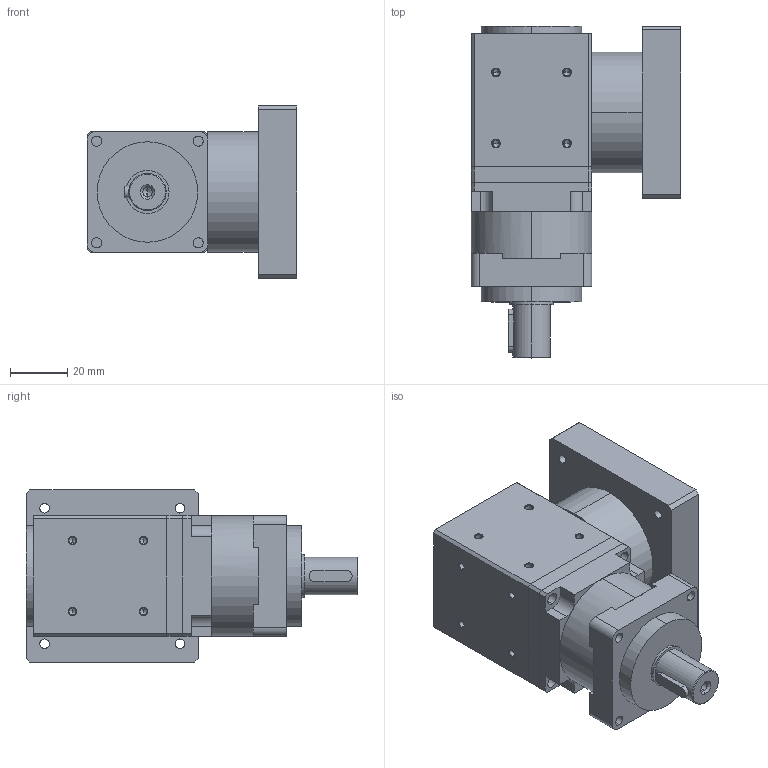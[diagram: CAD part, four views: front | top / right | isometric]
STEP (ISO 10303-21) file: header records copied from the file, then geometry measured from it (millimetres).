
FILE_DESCRIPTION (( 'STEP AP203' ), '1' );
FILE_NAME ('QLAS-042-0XX.STEP', '2012-05-22T17:41:11', ( 'render' ), ( '' ), 'SwSTEP 2.0', 'SolidWorks 2011', '' );
FILE_SCHEMA (( 'CONFIG_CONTROL_DESIGN' ));
Length unit declared in the file: millimetre
Products named in the file (1): QLAS-042-0XX
Bounding box: 73 x 115.5 x 60 mm (x, y, z)
Volume: 220725.8 mm3; surface area: 48890.9 mm2
Topology: 5 solids, 5 shells, 262 faces, 667 edges, 400 vertices
Faces by surface type: cylinder 120, plane 76, cone 66
Entity records: 7924 total; most frequent: CARTESIAN_POINT 1480, DIRECTION 1407, ORIENTED_EDGE 1262, EDGE_CURVE 631, AXIS2_PLACEMENT_3D 533, VERTEX_POINT 400, VECTOR 341, LINE 341
